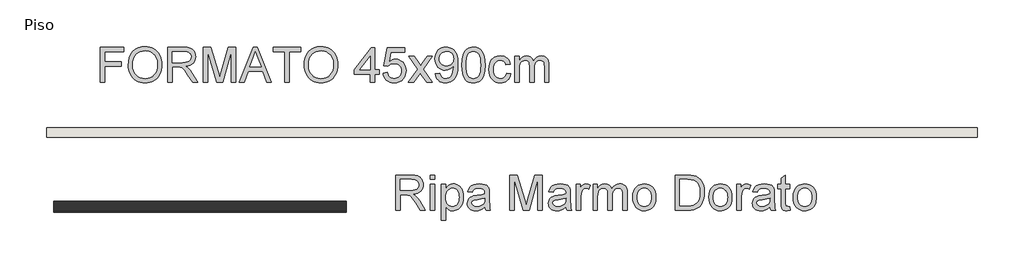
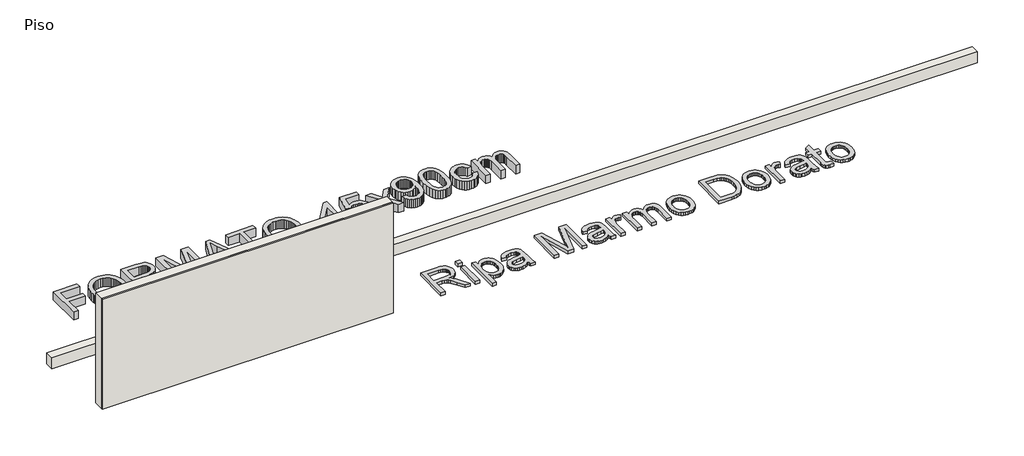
# One storey: 3 walls, 2 proxies.
"""IFC4 building model written with IfcOpenShell, lengths in millimetres."""

from ifc_helpers import new_model, si_unit, origin, origin_with_axes, place, context, project, spatial, polyline, outline, extrude, element, save

model = new_model("IFC4")

# Units and contexts
model_context = context("Model", 3, world=origin())
ifc_project = project(units=[si_unit("LENGTHUNIT", "METRE", prefix="MILLI")], contexts=[model_context])

# Site, building, storey
site = spatial("IfcSite", under=ifc_project)
building = spatial("IfcBuilding", under=site)
storey = spatial("IfcBuildingStorey", under=building, Name="Piso", Elevation=0.0)

# Proxies
placement = place(None, origin())
element("IfcBuildingElementProxy", 1, Name="600mm Arial", ObjectType="600mm Arial", at=placement, inside=storey, context=model_context, shape_type="SweptSolid", body=[
    extrude(outline(polyline([(92602.0859381, 2702.6380465), (92602.0859381, 3305.3759074), (93007.0504384, 3305.3759074), (93007.0504384, 3230.0336748), (92677.4281707, 3230.0336748), (92677.4281707, 3051.0958724), (92959.961543, 3051.0958724), (92959.961543, 2975.7536397), (92677.4281707, 2975.7536397), (92677.4281707, 2702.6380465), (92602.0859381, 2702.6380465)])), origin_with_axes(), (0.0, 0.0, 1.0), 150.0),
    extrude(outline(polyline([(93082.392671, 2996.0607259), (93087.4142602, 3066.7584483), (93102.4790279, 3129.3443727), (93127.5869741, 3183.8184992), (93143.9071391, 3208.0136381), (93162.7380987, 3230.1808276), (93205.8262774, 3267.1989534), (93254.7453857, 3293.6404718), (93309.4954237, 3309.5053828), (93370.0763912, 3314.7936865), (93410.6261841, 3312.310483), (93449.134232, 3304.8608726), (93485.6005348, 3292.4448553), (93520.0250925, 3275.062431), (93551.4422148, 3253.2378317), (93578.8862117, 3227.495289), (93602.357083, 3197.8348032), (93621.8548287, 3164.2563741), (93637.1771138, 3127.5233569), (93648.1216032, 3088.3991067), (93654.6882968, 3046.8836235), (93656.8771947, 3002.9769074), (93654.5733337, 2958.4907771), (93647.6617507, 2916.4142739), (93636.1424457, 2876.7473978), (93620.0154187, 2839.4901487), (93599.6623474, 2805.6266111), (93575.4649091, 2776.1408692), (93547.423104, 2751.032923), (93515.5369321, 2730.3027726), (93481.0617906, 2714.0791766), (93445.2530769, 2702.4908937), (93408.110791, 2695.537924), (93369.6349328, 2693.2202674), (93328.3769671, 2695.7816458), (93289.3630815, 2703.465781), (93252.5932761, 2716.272673), (93218.0675508, 2734.2023217), (93186.6872166, 2756.56035), (93159.3535844, 2782.6523805), (93136.0666541, 2812.4784132), (93116.8264257, 2846.0384482), (93101.761658, 2881.9851177), (93091.0011097, 2918.9710538), (93084.5447807, 2956.9962565), (93082.392671, 2996.0607259)]), holes=[polyline([(93157.7349036, 2995.3249619), (93161.5010955, 2945.375784), (93172.7996713, 2901.0368065), (93191.6306309, 2862.3080295), (93217.9939744, 2829.1894529), (93250.0410947, 2802.665161), (93285.9233848, 2783.7192383), (93325.6408447, 2772.3516846), (93369.1934744, 2768.5625001), (93413.4910652, 2772.3884728), (93453.6775746, 2783.8663911), (93489.7530028, 2802.9962548), (93521.7173496, 2829.7780641), (93547.8875551, 2863.5956165), (93566.5805589, 2903.8327097), (93577.7963613, 2950.4893437), (93581.5349621, 3003.5655186), (93579.9346754, 3038.0452586), (93575.1338153, 3070.2625243), (93567.1323819, 3100.2173158), (93555.9303752, 3127.9096329), (93541.6519553, 3152.9761924), (93524.4212823, 3175.0537106), (93504.2383563, 3194.1421877), (93481.1031774, 3210.2416235), (93455.7331153, 3223.0209243), (93428.84554, 3232.1489963), (93400.4404514, 3237.6258395), (93370.5178496, 3239.4514539), (93328.4781346, 3235.9335823), (93289.4734461, 3225.3799676), (93253.503784, 3207.7906097), (93220.5691484, 3183.1655086), (93193.0791663, 3150.318245), (93173.4434648, 3108.0623993), (93161.6620439, 3056.3979716), (93157.7349036, 2995.3249619)])]), origin_with_axes(), (0.0, 0.0, 1.0), 150.0),
    extrude(outline(polyline([(93760.4727645, 2702.6380465), (93760.4727645, 3305.3759074), (94020.1974531, 3305.3759074), (94090.0030617, 3301.3108114), (94140.7891711, 3289.1155232), (94160.3880844, 3279.4218327), (94177.9084644, 3266.6011451), (94193.3503112, 3250.6534606), (94206.7136247, 3231.5787792), (94217.4971656, 3210.4025718), (94225.1996949, 3188.1503097), (94229.8212125, 3164.8219926), (94231.3617183, 3140.4176208), (94228.809537, 3109.4603509), (94221.152993, 3081.0414668), (94208.3920863, 3055.1609684), (94190.5268169, 3031.8188558), (94167.3272585, 3011.76009), (94138.563485, 2995.7296321), (94104.2354964, 2983.727482), (94064.3432925, 2975.7536397), (94089.1753272, 2959.5300438), (94107.1647568, 2943.527177), (94138.0300562, 2906.9229184), (94168.233168, 2865.9776524), (94268.738529, 2702.6380465), (94181.1826142, 2702.6380465), (94102.7501728, 2827.5707721), (94046.0963456, 2910.2706446), (94025.0351013, 2934.3853094), (94006.2915137, 2949.3397125), (93970.4598074, 2963.6871103), (93926.7554263, 2966.3358607), (93835.8149971, 2966.3358607), (93835.8149971, 2702.6380465), (93760.4727645, 2702.6380465)]), holes=[polyline([(93835.8149971, 3041.6780933), (94004.4521037, 3041.6780933), (94052.8837684, 3044.3452377), (94090.4629142, 3052.3466711), (94118.7530396, 3066.2158224), (94139.3176431, 3086.4861203), (94151.8440251, 3111.0054553), (94156.0194857, 3137.6217176), (94154.0283244, 3156.8895371), (94148.0548405, 3174.3731289), (94138.099034, 3190.0724931), (94124.1609049, 3203.9876296), (94105.9185565, 3215.3827744), (94083.050092, 3223.5221635), (94055.5555114, 3228.405797), (94023.4348147, 3230.0336748), (93835.8149971, 3230.0336748), (93835.8149971, 3041.6780933)])]), origin_with_axes(), (0.0, 0.0, 1.0), 150.0),
    extrude(outline(polyline([(94363.2106254, 2702.6380465), (94363.2106254, 3305.3759074), (94492.8522405, 3305.3759074), (94616.1662853, 2880.5457794), (94641.0351082, 2791.8126422), (94667.9640702, 2887.9034193), (94789.2179758, 3305.3759074), (94918.8595909, 3305.3759074), (94918.8595909, 2702.6380465), (94843.5173583, 2702.6380465), (94843.5173583, 3230.0336748), (94692.0971291, 2702.6380465), (94589.9730872, 2702.6380465), (94438.552858, 3230.0336748), (94438.552858, 2702.6380465), (94363.2106254, 2702.6380465)])), origin_with_axes(), (0.0, 0.0, 1.0), 150.0),
    extrude(outline(polyline([(94980.5166133, 2702.6380465), (95221.1114382, 3305.3759074), (95285.2700581, 3305.3759074), (95525.864883, 2702.6380465), (95446.2552192, 2702.6380465), (95377.2405569, 2890.9936281), (95128.9937866, 2890.9936281), (95060.1262771, 2702.6380465), (94980.5166133, 2702.6380465)]), holes=[polyline([(95156.6585126, 2966.3358607), (95349.7229837, 2966.3358607), (95295.4236012, 3114.5187283), (95253.1907481, 3230.0336748), (95215.6667846, 3127.4681746), (95156.6585126, 2966.3358607)])]), origin_with_axes(), (0.0, 0.0, 1.0), 150.0),
    extrude(outline(polyline([(95757.0419287, 2702.6380465), (95757.0419287, 3230.0336748), (95559.2685681, 3230.0336748), (95559.2685681, 3305.3759074), (96030.1575219, 3305.3759074), (96030.1575219, 3230.0336748), (95832.3841613, 3230.0336748), (95832.3841613, 2702.6380465), (95757.0419287, 2702.6380465)])), origin_with_axes(), (0.0, 0.0, 1.0), 150.0),
    extrude(outline(polyline([(96086.6641964, 2996.0607259), (96091.6857856, 3066.7584483), (96106.7505533, 3129.3443727), (96131.8584995, 3183.8184992), (96148.1786645, 3208.0136381), (96167.0096242, 3230.1808276), (96210.0978028, 3267.1989534), (96259.0169111, 3293.6404718), (96313.7669491, 3309.5053828), (96374.3479166, 3314.7936865), (96414.8977096, 3312.310483), (96453.4057574, 3304.8608726), (96489.8720602, 3292.4448553), (96524.2966179, 3275.062431), (96555.7137403, 3253.2378317), (96583.1577371, 3227.495289), (96606.6286084, 3197.8348032), (96626.1263541, 3164.2563741), (96641.4486392, 3127.5233569), (96652.3931286, 3088.3991067), (96658.9598222, 3046.8836235), (96661.1487201, 3002.9769074), (96658.8448591, 2958.4907771), (96651.9332761, 2916.4142739), (96640.4139711, 2876.7473978), (96624.2869442, 2839.4901487), (96603.9338728, 2805.6266111), (96579.7364345, 2776.1408692), (96551.6946295, 2751.032923), (96519.8084575, 2730.3027726), (96485.3333161, 2714.0791766), (96449.5246024, 2702.4908937), (96412.3823164, 2695.537924), (96373.9064582, 2693.2202674), (96332.6484925, 2695.7816458), (96293.6346069, 2703.465781), (96256.8648015, 2716.272673), (96222.3390762, 2734.2023217), (96190.958742, 2756.56035), (96163.6251098, 2782.6523805), (96140.3381795, 2812.4784132), (96121.0979512, 2846.0384482), (96106.0331835, 2881.9851177), (96095.2726351, 2918.9710538), (96088.8163061, 2956.9962565), (96086.6641964, 2996.0607259)]), holes=[polyline([(96162.006429, 2995.3249619), (96165.7726209, 2945.375784), (96177.0711967, 2901.0368065), (96195.9021564, 2862.3080295), (96222.2654998, 2829.1894529), (96254.3126201, 2802.665161), (96290.1949102, 2783.7192383), (96329.9123701, 2772.3516846), (96373.4649998, 2768.5625001), (96417.7625906, 2772.3884728), (96457.9491, 2783.8663911), (96494.0245282, 2802.9962548), (96525.988875, 2829.7780641), (96552.1590805, 2863.5956165), (96570.8520844, 2903.8327097), (96582.0678867, 2950.4893437), (96585.8064875, 3003.5655186), (96584.2062008, 3038.0452586), (96579.4053407, 3070.2625243), (96571.4039074, 3100.2173158), (96560.2019006, 3127.9096329), (96545.9234807, 3152.9761924), (96528.6928077, 3175.0537106), (96508.5098818, 3194.1421877), (96485.3747028, 3210.2416235), (96460.0046407, 3223.0209243), (96433.1170654, 3232.1489963), (96404.7119768, 3237.6258395), (96374.789375, 3239.4514539), (96332.74966, 3235.9335823), (96293.7449715, 3225.3799676), (96257.7753094, 3207.7906097), (96224.8406738, 3183.1655086), (96197.3506917, 3150.318245), (96177.7149902, 3108.0623993), (96165.9335693, 3056.3979716), (96162.006429, 2995.3249619)])]), origin_with_axes(), (0.0, 0.0, 1.0), 150.0),
    extrude(outline(polyline([(97216.7976856, 2702.6380465), (97216.7976856, 2843.9047327), (96943.6820924, 2843.9047327), (96943.6820924, 2919.2469653), (97235.6332437, 3295.9581283), (97292.1399182, 3295.9581283), (97292.1399182, 2919.2469653), (97367.4821508, 2919.2469653), (97367.4821508, 2843.9047327), (97292.1399182, 2843.9047327), (97292.1399182, 2702.6380465), (97216.7976856, 2702.6380465)]), holes=[polyline([(97216.7976856, 2919.2469653), (97216.7976856, 3152.0426918), (97036.3883552, 2919.2469653), (97216.7976856, 2919.2469653)])]), origin_with_axes(), (0.0, 0.0, 1.0), 150.0),
    extrude(outline(polyline([(97433.4066044, 2862.7402908), (97508.748837, 2872.1580699), (97514.3774315, 2847.937639), (97522.5812, 2826.9269786), (97533.3601424, 2809.1260886), (97546.7142589, 2794.5349689), (97562.6159581, 2783.1720138), (97581.037649, 2775.0556173), (97601.9793316, 2770.1857794), (97625.4410058, 2768.5625001), (97654.1358015, 2770.8203758), (97679.4460827, 2777.594003), (97701.3718496, 2788.8833818), (97719.9131022, 2804.688512), (97734.6559732, 2824.2276445), (97745.1865953, 2846.7190299), (97751.5049685, 2872.1626684), (97753.611093, 2900.5585599), (97751.6383258, 2927.3955515), (97745.7200242, 2951.2526989), (97735.8561882, 2972.1300021), (97722.0468178, 2990.0274612), (97704.2459277, 3004.384056), (97682.4075328, 3014.6387666), (97656.531633, 3020.791593), (97626.6182282, 3022.8425351), (97590.069152, 3019.5683854), (97560.4730455, 3009.7459361), (97536.8366273, 2994.6995625), (97518.166616, 2975.7536397), (97442.8243834, 2985.1714188), (97508.748837, 3295.9581283), (97800.6999883, 3295.9581283), (97800.6999883, 3220.6158957), (97569.6700954, 3220.6158957), (97537.4436326, 3054.6275395), (97564.0323038, 3073.6838269), (97591.2647685, 3087.2954607), (97619.1410267, 3095.462441), (97647.6610783, 3098.1847677), (97684.3527088, 3094.8094504), (97718.0552981, 3084.6834985), (97748.7688462, 3067.806912), (97776.4933531, 3044.1796908), (97799.444591, 3015.2457719), (97815.8383324, 2982.4490921), (97825.6745773, 2945.7896512), (97828.9533256, 2905.2674495), (97826.0010726, 2866.2351698), (97817.1443135, 2829.9252169), (97802.3830485, 2796.3375907), (97781.7172774, 2765.4722913), (97750.4105196, 2733.8620309), (97713.8798375, 2711.2832734), (97672.125231, 2697.7360189), (97625.1467002, 2693.2202674), (97586.2661719, 2696.1219367), (97551.1472369, 2704.8269444), (97519.7898953, 2719.3352906), (97492.1941472, 2739.6469752), (97469.2337122, 2764.7503229), (97451.78231, 2793.633658), (97439.8399407, 2826.2969807), (97433.4066044, 2862.7402908)])), origin_with_axes(), (0.0, 0.0, 1.0), 150.0),
    extrude(outline(polyline([(97866.6244419, 2702.6380465), (98027.609603, 2925.1330772), (97876.0422209, 3145.2736631), (97966.6883446, 3145.2736631), (98039.8232852, 3039.3236485), (98073.9627344, 2989.2916972), (98103.5404468, 3030.200175), (98186.8289305, 3145.2736631), (98277.4750541, 3145.2736631), (98118.2557266, 2925.1330772), (98271.5889422, 2702.6380465), (98180.9428186, 2702.6380465), (98088.6780142, 2836.39994), (98071.7554424, 2860.8273045), (97957.2705655, 2702.6380465), (97866.6244419, 2702.6380465)])), origin_with_axes(), (0.0, 0.0, 1.0), 150.0),
    extrude(outline(polyline([(98328.0956166, 2853.3225117), (98403.4378492, 2862.7402908), (98416.3137191, 2819.9740089), (98425.7866804, 2803.7090262), (98437.2829928, 2790.856149), (98450.6738974, 2781.1026776), (98465.8306356, 2774.1359123), (98501.4416127, 2768.5625001), (98533.392164, 2772.1493495), (98562.4364475, 2782.9098979), (98586.5695064, 2799.6669228), (98603.7863838, 2821.2432018), (98616.8278005, 2849.6069036), (98628.4344775, 2886.7261969), (98636.6014578, 2929.326932), (98639.3237845, 2974.134959), (98638.8823261, 2988.8502388), (98612.7810986, 2956.991658), (98578.6232553, 2931.7549531), (98538.8736058, 2915.3106279), (98495.9969592, 2909.8291862), (98460.2066396, 2913.1769124), (98427.2949966, 2923.2200908), (98397.2620302, 2939.9587216), (98370.1077405, 2963.3928047), (98347.6071579, 2992.2991325), (98331.5353133, 3025.4544973), (98321.8922065, 3062.8588992), (98318.6778375, 3104.5123381), (98322.0485563, 3147.5545315), (98332.1607127, 3186.182141), (98349.0143066, 3220.3951665), (98372.609338, 3250.1936081), (98401.281141, 3274.3358641), (98433.3650495, 3291.5803326), (98468.8610636, 3301.9270137), (98507.7691831, 3305.3759074), (98536.4961684, 3303.4077387), (98563.9631578, 3297.5032327), (98590.1701515, 3287.6623894), (98615.1171493, 3273.8852086), (98637.9718182, 3256.4659962), (98657.9018253, 3235.6990575), (98674.9071705, 3211.5843928), (98688.9878539, 3184.1220018), (98700.0289123, 3151.7299921), (98707.9153825, 3112.8264711), (98712.6472647, 3067.4114388), (98714.2245588, 3015.4848952), (98712.6518632, 2960.950988), (98707.9337766, 2912.2756015), (98700.070299, 2869.4587358), (98689.0614303, 2832.5003908), (98674.9485572, 2800.4992558), (98657.7730666, 2772.5540197), (98637.5349583, 2748.6646826), (98614.2342325, 2728.8312446), (98588.3399385, 2713.2514421), (98560.3211261, 2702.1230117), (98530.1777951, 2695.4459535), (98497.9099456, 2693.2202674), (98464.0739991, 2695.8460252), (98433.4938082, 2703.7232984), (98406.169373, 2716.8520871), (98382.1006935, 2735.2323913), (98361.8947749, 2758.3675703), (98346.1586226, 2785.7609833), (98334.8922365, 2817.4126305), (98328.0956166, 2853.3225117)]), holes=[polyline([(98638.8823261, 3106.2781716), (98636.8497781, 3133.2807101), (98630.7521341, 3157.3401926), (98620.5893939, 3178.4566191), (98606.3615578, 3196.6299896), (98588.7676014, 3211.2441019), (98568.5065005, 3221.6827535), (98545.5782551, 3227.9459445), (98519.9828653, 3230.0336748), (98493.5689381, 3227.7849961), (98469.6566084, 3221.03896), (98448.2458762, 3209.7955666), (98429.3367417, 3194.0548157), (98413.8856979, 3174.7364124), (98402.849238, 3152.7600617), (98396.2273621, 3128.1257636), (98394.0200702, 3100.8335181), (98396.1078005, 3076.3555699), (98402.3709914, 3054.2780516), (98412.8096431, 3034.6009634), (98427.4237553, 3017.3243052), (98445.6063229, 3003.2574174), (98466.7503406, 2993.2096404), (98490.8558083, 2987.1809742), (98517.9227261, 2985.1714188), (98543.1640295, 2987.1809742), (98566.0600852, 2993.2096404), (98586.6108932, 3003.2574174), (98604.8164534, 3017.3243052), (98619.7202727, 3034.9412542), (98630.365858, 3055.639215), (98636.7532091, 3079.4181875), (98638.8823261, 3106.2781716)])]), origin_with_axes(), (0.0, 0.0, 1.0), 150.0),
    extrude(outline(polyline([(98780.1490123, 2999.1509346), (98785.6856363, 3095.6279879), (98792.6064164, 3136.5410643), (98802.2955084, 3172.5705072), (98814.7115257, 3204.0106222), (98829.8130816, 3231.1557149), (98847.6001761, 3254.0057853), (98868.0728091, 3272.5608335), (98891.2999586, 3286.9174283), (98917.3506024, 3297.1721389), (98946.2247405, 3303.3249653), (98977.9223729, 3305.3759074), (99024.3490807, 3300.5198651), (99065.9197461, 3285.9517381), (99100.6845947, 3262.2417435), (99126.6938518, 3229.9600984), (99146.3387503, 3189.3827143), (99162.0105233, 3140.7855028), (99172.274431, 3079.0732981), (99175.6957335, 2999.1509346), (99170.2142918, 2903.2257044), (99163.3624896, 2862.4505838), (99153.7699666, 2826.4671261), (99141.4505183, 2795.0132155), (99126.4179403, 2767.8267361), (99108.6722325, 2744.9076878), (99088.2133951, 2726.2560706), (99064.9586544, 2711.8029067), (99038.8252372, 2701.4792182), (99009.8131434, 2695.2850051), (98977.9223729, 2693.2202674), (98936.4252838, 2696.8071169), (98899.6370843, 2707.5676653), (98867.5577743, 2725.5019125), (98840.1873539, 2750.6098587), (98813.9205795, 2795.9972999), (98795.1585977, 2852.5499596), (98783.9014086, 2920.2678378), (98780.1490123, 2999.1509346)]), holes=[polyline([(98855.4912449, 2999.2980874), (98857.6985369, 2933.8012967), (98864.3204128, 2880.7849027), (98875.3568726, 2840.2489053), (98890.8079164, 2812.1933047), (98909.4963218, 2793.1048277), (98930.2448663, 2779.4702012), (98953.05355, 2771.2894254), (98977.9223729, 2768.5625001), (99002.7911958, 2771.2986224), (99025.5998795, 2779.5069894), (99046.348424, 2793.1876011), (99065.0368294, 2812.3404575), (99080.4878732, 2840.4420434), (99091.524333, 2880.9688437), (99098.1462089, 2933.9208584), (99100.3535009, 2999.2980874), (99098.2197853, 3063.0612342), (99091.8186386, 3115.1441277), (99081.1500607, 3155.5467678), (99066.2140517, 3184.2691546), (99047.8383461, 3204.2911322), (99026.8506783, 3218.5925448), (99003.2510483, 3227.1733923), (98977.0394561, 3230.0336748), (98952.2993919, 3227.5136831), (98929.8769843, 3219.9537081), (98909.7722333, 3207.3537498), (98891.9851388, 3189.7138081), (98876.0190602, 3158.4438385), (98864.6147184, 3116.2845619), (98857.7721133, 3063.2359782), (98855.4912449, 2999.2980874)])]), origin_with_axes(), (0.0, 0.0, 1.0), 150.0),
    extrude(outline(polyline([(99542.9891175, 2862.7402908), (99618.3313501, 2853.3225117), (99610.1367787, 2817.7713154), (99597.3252882, 2786.3128063), (99579.8968787, 2758.9469844), (99557.8515501, 2735.6738497), (99532.1182045, 2717.1004075), (99503.625744, 2703.833663), (99472.3741685, 2695.8736163), (99438.3634781, 2693.2202674), (99396.1076324, 2696.92208), (99358.2203854, 2708.0275178), (99324.7017371, 2726.5365806), (99295.5516875, 2752.4492687), (99271.9566561, 2785.2781382), (99255.1030622, 2824.5357456), (99244.9909058, 2870.2220909), (99241.620187, 2922.337174), (99247.3775403, 2989.3836677), (99254.5742318, 3019.5545898), (99264.6495999, 3047.4906288), (99277.6726226, 3072.6307646), (99293.7122776, 3094.4139773), (99312.7685649, 3112.8402667), (99334.8414846, 3127.9096329), (99358.9331568, 3139.6266745), (99384.0457015, 3147.9959899), (99410.1791187, 3153.0175791), (99437.3334085, 3154.6914422), (99470.7600863, 3152.3921797), (99500.9953877, 3145.4943923), (99528.0393129, 3133.99808), (99551.8918618, 3117.9032427), (99572.1483641, 3097.5777624), (99588.4041498, 3073.3895213), (99600.6592188, 3045.3385191), (99608.913571, 3013.4247561), (99533.5713384, 3004.006977), (99519.9045223, 3036.8772332), (99498.6225489, 3060.440075), (99470.9026405, 3074.6219259), (99437.9220197, 3079.3492096), (99412.3220313, 3077.022356), (99389.2328376, 3070.0417951), (99368.6544385, 3058.407527), (99350.586834, 3042.1195517), (99335.8761527, 3020.8007901), (99325.3685232, 2994.0741631), (99319.0639456, 2961.9396708), (99316.9624197, 2924.3973132), (99319.0179603, 2886.289337), (99325.1845822, 2853.7823642), (99335.4622855, 2826.8763948), (99349.85107, 2805.5714288), (99367.5599896, 2789.3800225), (99387.7980978, 2777.8147322), (99410.5653948, 2770.8755581), (99435.8618805, 2768.5625001), (99474.8757661, 2774.3382474), (99491.7477541, 2781.5579315), (99506.8631056, 2791.6654894), (99519.7987562, 2804.7712854), (99530.1316418, 2820.9856844), (99537.8617622, 2840.3086862), (99542.9891175, 2862.7402908)])), origin_with_axes(), (0.0, 0.0, 1.0), 150.0),
    extrude(outline(polyline([(99684.2558036, 2702.6380465), (99684.2558036, 3145.2736631), (99759.5980363, 3145.2736631), (99759.5980363, 3072.4330281), (99782.2595672, 3105.8918955), (99811.3958212, 3132.1034877), (99846.0135169, 3149.0444536), (99885.119373, 3154.6914422), (99927.0211323, 3148.934089), (99944.854212, 3141.7373974), (99960.6087584, 3131.6620293), (99985.6983105, 3104.0156974), (100002.1058475, 3067.1355273), (100029.5682384, 3105.4412401), (100060.8933903, 3132.8024635), (100096.0813031, 3149.2191975), (100135.1319769, 3154.6914422), (100165.293702, 3152.4151724), (100191.7674101, 3145.5863628), (100214.5531012, 3134.2050136), (100233.6507752, 3118.2711247), (100248.7477326, 3097.6007551), (100259.5312736, 3072.0099638), (100266.0013982, 3041.4987508), (100268.1581064, 3006.0671161), (100268.1581064, 2702.6380465), (100192.8158738, 2702.6380465), (100192.8158738, 2973.6935006), (100191.0684343, 3011.2726464), (100185.8261159, 3036.6013217), (100176.0036666, 3053.9469578), (100160.5158346, 3067.5769857), (100140.5950246, 3076.4061536), (100117.4736412, 3079.3492096), (100096.1226899, 3077.4638144), (100076.6571338, 3071.8076287), (100059.076973, 3062.3806526), (100043.3822073, 3049.182886), (100030.4741478, 3031.8280529), (100021.2541053, 3009.9298771), (100015.7220798, 2983.4883587), (100013.8780713, 2952.5034976), (100013.8780713, 2702.6380465), (99938.5358387, 2702.6380465), (99938.5358387, 2982.0812101), (99934.1764371, 3024.6819451), (99928.727185, 3041.4021818), (99921.0982321, 3055.0689979), (99910.9860758, 3065.6915905), (99898.0872133, 3073.2791567), (99882.4016448, 3077.8316964), (99863.9293701, 3079.3492096), (99834.9034807, 3075.3025076), (99808.1584596, 3063.1624018), (99786.0855399, 3043.2231977), (99771.0759545, 3015.7792008), (99762.4675158, 2977.7034143), (99759.5980363, 2925.8688412), (99759.5980363, 2702.6380465), (99684.2558036, 2702.6380465)])), origin_with_axes(), (0.0, 0.0, 1.0), 150.0),
])
element("IfcBuildingElementProxy", 2, Name="600mm Arial", ObjectType="600mm Arial", at=placement, inside=storey, context=model_context, shape_type="SweptSolid", body=[
    extrude(outline(polyline([(97649.031951, 518.0346061), (97649.031951, 1120.772467), (97908.7566396, 1120.772467), (97978.5622482, 1116.7073709), (98029.3483576, 1104.5120828), (98048.9472709, 1094.8183922), (98066.467651, 1081.9977047), (98081.9094977, 1066.0500202), (98095.2728112, 1046.9753388), (98106.0563522, 1025.7991314), (98113.7588814, 1003.5468692), (98118.380399, 980.2185522), (98119.9209048, 955.8141804), (98117.3687235, 924.8569105), (98109.7121795, 896.4380263), (98096.9512728, 870.557528), (98079.0860034, 847.2154154), (98055.8864451, 827.1566496), (98027.1226716, 811.1261917), (97992.7946829, 799.1240416), (97952.902479, 791.1501993), (97977.7345137, 774.9266033), (97995.7239433, 758.9237365), (98026.5892427, 722.319478), (98056.7923545, 681.374212), (98157.2977156, 518.0346061), (98069.7418007, 518.0346061), (97991.3093593, 642.9673317), (97934.6555321, 725.6672042), (97913.5942879, 749.781869), (97894.8507002, 764.7362721), (97859.0189939, 779.0836699), (97815.3146128, 781.7324202), (97724.3741836, 781.7324202), (97724.3741836, 518.0346061), (97649.031951, 518.0346061)]), holes=[polyline([(97724.3741836, 857.0746529), (97893.0112902, 857.0746529), (97941.4429549, 859.7417973), (97979.0221007, 867.7432307), (98007.3122261, 881.6123819), (98027.8768297, 901.8826799), (98040.4032116, 926.4020148), (98044.5786722, 953.0182772), (98042.5875109, 972.2860967), (98036.614027, 989.7696885), (98026.6582205, 1005.4690527), (98012.7200915, 1019.3841891), (97994.477743, 1030.7793339), (97971.6092785, 1038.9187231), (97944.1146979, 1043.8023566), (97911.9940012, 1045.4302344), (97724.3741836, 1045.4302344), (97724.3741836, 857.0746529)])]), origin_with_axes(), (0.0, 0.0, 1.0), 50.0),
    extrude(outline(polyline([(98242.3520328, 1045.4302344), (98242.3520328, 1120.772467), (98317.6942655, 1120.772467), (98317.6942655, 1045.4302344), (98242.3520328, 1045.4302344)])), origin_with_axes(), (0.0, 0.0, 1.0), 50.0),
    extrude(outline(polyline([(98242.3520328, 518.0346061), (98242.3520328, 960.6702227), (98317.6942655, 960.6702227), (98317.6942655, 518.0346061), (98242.3520328, 518.0346061)])), origin_with_axes(), (0.0, 0.0, 1.0), 50.0),
    extrude(outline(polyline([(98430.7076144, 348.5145827), (98430.7076144, 960.6702227), (98506.049847, 960.6702227), (98506.049847, 886.7995181), (98530.6243643, 923.2382297), (98558.1419375, 949.2658808), (98590.2212475, 964.8824715), (98628.480975, 970.0880018), (98654.7569465, 968.2669859), (98679.4326313, 962.8039383), (98702.5080295, 953.6988589), (98723.9831409, 940.9517478), (98743.3889162, 924.8936987), (98760.2563057, 905.8558054), (98774.5853094, 883.838068), (98786.3759273, 858.8404864), (98802.1580649, 803.3270934), (98807.4187774, 742.7369287), (98801.4774832, 678.3023973), (98794.0508654, 648.6373129), (98783.6536005, 620.6736828), (98770.4282428, 595.1426723), (98754.5173465, 572.775447), (98735.9209117, 553.5720068), (98714.6389383, 537.5323518), (98691.7152914, 524.8818097), (98668.1938364, 515.8457082), (98644.0745731, 510.4240473), (98619.3575015, 508.616827), (98584.7214117, 513.4544753), (98553.80093, 527.96742), (98527.3318204, 549.8747928), (98506.049847, 576.8957253), (98506.049847, 348.5145827), (98430.7076144, 348.5145827)]), holes=[polyline([(98506.049847, 735.8207472), (98508.0869935, 699.5107943), (98514.1984332, 668.2776129), (98524.3841659, 642.1212031), (98538.6441918, 621.0415647), (98555.8104854, 604.8179688), (98574.7150214, 593.2296859), (98595.3577998, 586.2767162), (98617.7388207, 583.9590596), (98640.4417384, 586.3594897), (98661.4615958, 593.5607797), (98680.7983932, 605.5629298), (98698.4521305, 622.3659399), (98713.1628117, 644.2089334), (98723.6704412, 671.3310335), (98729.9750189, 703.7322402), (98732.0765448, 741.4125536), (98730.0256027, 777.4098068), (98723.8727763, 808.5878059), (98713.6180657, 834.9465508), (98699.2614709, 856.4860417), (98682.0537905, 873.2246724), (98663.2458235, 885.1808373), (98642.8375698, 892.3545362), (98620.8290295, 894.7457692), (98598.889467, 892.2027849), (98578.2466885, 884.573832), (98558.9006941, 871.8589105), (98540.8514837, 854.0580205), (98525.6257677, 831.4102852), (98514.7502562, 804.1548278), (98508.2249493, 772.2916485), (98506.049847, 735.8207472)])]), origin_with_axes(), (0.0, 0.0, 1.0), 50.0),
    extrude(outline(polyline([(99174.7121614, 574.5412806), (99138.7149082, 543.6759812), (99101.6507972, 523.4792596), (99062.6736998, 512.3324352), (99020.9374874, 508.616827), (98987.391248, 510.8517101), (98957.974484, 517.5563595), (98932.6871953, 528.7307751), (98911.5293821, 544.374957), (98894.822941, 563.4956236), (98882.8897687, 585.0994938), (98875.7298654, 609.1865675), (98873.343231, 635.7568446), (98876.9484745, 666.9900259), (98887.7642052, 695.3537278), (98904.4476537, 719.6339395), (98925.6560507, 738.6166504), (98950.5800559, 752.9640482), (98978.4103288, 763.3383205), (99043.5990183, 774.6690859), (99120.6335081, 786.5884626), (99174.270703, 800.5679784), (99174.7121614, 817.3433974), (99169.5250253, 850.9678117), (99163.0411051, 863.4206173), (99153.9636169, 872.967155), (99138.2734498, 882.4952987), (99119.1619801, 889.3011156), (99070.6751332, 894.7457692), (99025.7935298, 891.1221315), (98994.4499838, 880.2512185), (98973.0760399, 860.1464675), (98958.1032427, 828.8213156), (98882.76101, 838.2390947), (98895.839215, 879.4418782), (98915.3553548, 911.8154937), (98943.1304455, 936.573952), (98980.9855028, 954.9312636), (99027.2834519, 966.2988172), (99080.3872179, 970.0880018), (99131.3204801, 966.7402756), (99171.6955291, 956.6970971), (99202.1377642, 941.5955412), (99223.2725848, 923.0726828), (99237.2888888, 900.1720286), (99246.3755741, 871.9370855), (99250.054394, 806.0126319), (99250.054394, 712.2762995), (99253.8803668, 581.3838857), (99259.5457495, 549.0286642), (99268.8899522, 518.0346061), (99193.5477196, 518.0346061), (99181.4811901, 544.2278042), (99174.7121614, 574.5412806)]), holes=[polyline([(99174.7121614, 725.2257458), (99124.0915989, 712.6809697), (99053.1639502, 702.1227565), (98988.3431427, 689.9090742), (98971.4757532, 681.558153), (98958.9861594, 670.0434465), (98951.2606376, 656.2478717), (98948.6854636, 641.0543453), (98954.295664, 618.6503318), (98971.1262653, 600.2930202), (98998.8093854, 588.0425498), (99036.9771424, 583.9590596), (99077.4441619, 588.4656141), (99113.2022918, 601.9852774), (99142.191393, 621.9060874), (99162.3513264, 645.616082), (99171.2908589, 670.0434465), (99174.270703, 703.8885901), (99174.7121614, 725.2257458)])]), origin_with_axes(), (0.0, 0.0, 1.0), 50.0),
    extrude(outline(polyline([(99598.5122199, 518.0346061), (99598.5122199, 1120.772467), (99728.153835, 1120.772467), (99851.4678797, 695.942339), (99876.3367026, 607.2092017), (99903.2656647, 703.2999789), (100024.5195703, 1120.772467), (100154.1611854, 1120.772467), (100154.1611854, 518.0346061), (100078.8189528, 518.0346061), (100078.8189528, 1045.4302344), (99927.3987236, 518.0346061), (99825.2746817, 518.0346061), (99673.8544525, 1045.4302344), (99673.8544525, 518.0346061), (99598.5122199, 518.0346061)])), origin_with_axes(), (0.0, 0.0, 1.0), 50.0),
    extrude(outline(polyline([(100559.1256857, 574.5412806), (100523.1284324, 543.6759812), (100486.0643214, 523.4792596), (100447.087224, 512.3324352), (100405.3510117, 508.616827), (100371.8047723, 510.8517101), (100342.3880082, 517.5563595), (100317.1007196, 528.7307751), (100295.9429063, 544.374957), (100279.2364652, 563.4956236), (100267.303293, 585.0994938), (100260.1433897, 609.1865675), (100257.7567552, 635.7568446), (100261.3619988, 666.9900259), (100272.1777294, 695.3537278), (100288.8611779, 719.6339395), (100310.0695749, 738.6166504), (100334.9935801, 752.9640482), (100362.823853, 763.3383205), (100428.0125426, 774.6690859), (100505.0470324, 786.5884626), (100558.6842273, 800.5679784), (100559.1256857, 817.3433974), (100553.9385495, 850.9678117), (100547.4546294, 863.4206173), (100538.3771411, 872.967155), (100522.686974, 882.4952987), (100503.5755044, 889.3011156), (100455.0886574, 894.7457692), (100410.207054, 891.1221315), (100378.863508, 880.2512185), (100357.4895641, 860.1464675), (100342.5167669, 828.8213156), (100267.1745343, 838.2390947), (100280.2527392, 879.4418782), (100299.7688791, 911.8154937), (100327.5439697, 936.573952), (100365.399027, 954.9312636), (100411.6969761, 966.2988172), (100464.8007421, 970.0880018), (100515.7340043, 966.7402756), (100556.1090533, 956.6970971), (100586.5512884, 941.5955412), (100607.686109, 923.0726828), (100621.702413, 900.1720286), (100630.7890983, 871.9370855), (100634.4679183, 806.0126319), (100634.4679183, 712.2762995), (100638.293891, 581.3838857), (100643.9592738, 549.0286642), (100653.3034764, 518.0346061), (100577.9612438, 518.0346061), (100565.8947144, 544.2278042), (100559.1256857, 574.5412806)]), holes=[polyline([(100559.1256857, 725.2257458), (100508.5051231, 712.6809697), (100437.5774745, 702.1227565), (100372.7566669, 689.9090742), (100355.8892774, 681.558153), (100343.3996837, 670.0434465), (100335.6741618, 656.2478717), (100333.0989878, 641.0543453), (100338.7091883, 618.6503318), (100355.5397895, 600.2930202), (100383.2229097, 588.0425498), (100421.3906667, 583.9590596), (100461.8576861, 588.4656141), (100497.6158161, 601.9852774), (100526.6049173, 621.9060874), (100546.7648506, 645.616082), (100555.7043831, 670.0434465), (100558.6842273, 703.8885901), (100559.1256857, 725.2257458)])]), origin_with_axes(), (0.0, 0.0, 1.0), 50.0),
    extrude(outline(polyline([(100738.0634881, 518.0346061), (100738.0634881, 960.6702227), (100803.9879417, 960.6702227), (100803.9879417, 895.1872276), (100828.3417297, 933.1526495), (100850.7825314, 955.5198748), (100873.2969096, 966.44597), (100897.8714268, 970.0880018), (100935.3953903, 964.2754662), (100973.507965, 946.8378597), (100948.3448366, 879.2947254), (100921.8573329, 890.8830082), (100895.3698293, 894.7457692), (100872.8738453, 891.030161), (100852.7690942, 879.8833366), (100836.5271041, 862.1514244), (100825.619403, 838.6805531), (100816.4591413, 796.5948528), (100813.4057207, 750.6831798), (100813.4057207, 518.0346061), (100738.0634881, 518.0346061)])), origin_with_axes(), (0.0, 0.0, 1.0), 50.0),
    extrude(outline(polyline([(101020.5968604, 518.0346061), (101020.5968604, 960.6702227), (101095.939093, 960.6702227), (101095.939093, 887.8295876), (101118.6006239, 921.2884551), (101147.736878, 947.5000473), (101182.3545737, 964.4410131), (101221.4604298, 970.0880018), (101263.362189, 964.3306485), (101281.1952688, 957.133957), (101296.9498152, 947.0585889), (101322.0393673, 919.4122569), (101338.4469043, 882.5320869), (101365.9092952, 920.8377997), (101397.2344471, 948.1990231), (101432.4223599, 964.6157571), (101471.4730337, 970.0880018), (101501.6347588, 967.8117319), (101528.1084669, 960.9829224), (101550.8941579, 949.6015732), (101569.991832, 933.6676842), (101585.0887894, 912.9973146), (101595.8723304, 887.4065234), (101602.342455, 856.8953104), (101604.4991632, 821.4636757), (101604.4991632, 518.0346061), (101529.1569306, 518.0346061), (101529.1569306, 789.0900601), (101527.4094911, 826.6692059), (101522.1671726, 851.9978813), (101512.3447234, 869.3435174), (101496.8568914, 882.9735453), (101476.9360813, 891.8027132), (101453.8146979, 894.7457692), (101432.4637466, 892.8603739), (101412.9981906, 887.2041883), (101395.4180297, 877.7772121), (101379.7232641, 864.5794456), (101366.8152046, 847.2246124), (101357.5951621, 825.3264367), (101352.0631366, 798.8849183), (101350.2191281, 767.9000572), (101350.2191281, 518.0346061), (101274.8768955, 518.0346061), (101274.8768955, 797.4777696), (101270.5174938, 840.0785047), (101265.0682418, 856.7987414), (101257.4392889, 870.4655575), (101247.3271326, 881.0881501), (101234.4282701, 888.6757162), (101218.7427015, 893.2282559), (101200.2704269, 894.7457692), (101171.2445374, 890.6990672), (101144.4995164, 878.5589614), (101122.4265967, 858.6197572), (101107.4170113, 831.1757604), (101098.8085726, 793.0999739), (101095.939093, 741.2654008), (101095.939093, 518.0346061), (101020.5968604, 518.0346061)])), origin_with_axes(), (0.0, 0.0, 1.0), 50.0),
    extrude(outline(polyline([(101698.6769539, 739.3524144), (101702.751247, 796.6776263), (101714.9741263, 846.0749812), (101735.3455918, 887.5444791), (101763.8656435, 921.08612), (101792.5788332, 942.5244433), (101824.2718671, 957.8375313), (101858.9447451, 967.0253842), (101896.5974673, 970.0880018), (101938.1635343, 966.358598), (101975.7472786, 955.1703869), (102009.3487003, 936.5233682), (102038.9677995, 910.4175422), (102063.1422451, 877.7358254), (102080.4097062, 839.3611348), (102090.7701829, 795.2934703), (102094.2236751, 745.5328319), (102092.6969649, 705.2037682), (102088.116834, 669.4180471), (102080.4832826, 638.1756687), (102069.7963107, 611.4766329), (102056.1892754, 588.4150303), (102039.795534, 568.0849515), (102020.6150864, 550.4863966), (101998.6479328, 535.6193655), (101974.7493987, 523.8057549), (101949.7748097, 515.3674616), (101923.724166, 510.3044857), (101896.5974673, 508.616827), (101854.4243951, 512.3324352), (101816.4911629, 523.4792596), (101782.7977707, 542.0573004), (101753.3442184, 568.0665574), (101729.4272902, 601.0655724), (101712.3437701, 640.6128869), (101702.093658, 686.7085009), (101698.6769539, 739.3524144)]), holes=[polyline([(101774.0191865, 739.4995672), (101776.1988874, 702.9550895), (101782.7379898, 671.3126394), (101793.6364939, 644.5722169), (101808.8943997, 622.7338219), (101827.4540463, 605.7698634), (101848.2577732, 593.6527502), (101871.3055802, 586.3824823), (101896.5974673, 583.9590596), (101921.7605958, 586.3962778), (101944.7164323, 593.7079325), (101965.4649768, 605.8940236), (101984.0062294, 622.9545511), (101999.2641351, 645.0090767), (102010.1626392, 672.1771621), (102016.7017417, 704.4588072), (102018.8814425, 741.854012), (102016.6879461, 777.2396614), (102010.1074569, 808.054377), (101999.139975, 834.2981588), (101983.7855002, 855.9710069), (101965.1752698, 872.9349654), (101944.4405208, 885.0520786), (101921.5812533, 892.3223465), (101896.5974673, 894.7457692), (101871.3055802, 892.3315436), (101848.2577732, 885.0888668), (101827.4540463, 873.0177388), (101808.8943997, 856.1181597), (101793.6364939, 834.3441441), (101782.7379898, 807.6497068), (101776.1988874, 776.0348478), (101774.0191865, 739.4995672)])]), origin_with_axes(), (0.0, 0.0, 1.0), 50.0),
    extrude(outline(polyline([(102423.8459428, 518.0346061), (102423.8459428, 1120.772467), (102631.7728465, 1120.772467), (102693.9081155, 1118.6019632), (102739.3415419, 1112.0904519), (102787.3869305, 1095.3518211), (102827.9275263, 1068.9746821), (102850.2671605, 1047.4167972), (102869.6085564, 1023.0630091), (102885.951714, 995.9133178), (102899.2966334, 965.9677234), (102909.6617086, 933.5021373), (102917.0653338, 898.7924711), (102922.9882339, 822.6408981), (102918.9783201, 757.9488493), (102906.9485789, 701.0191105), (102888.6280555, 652.5506576), (102865.7457954, 613.2424664), (102839.4054446, 582.2116202), (102810.7106489, 558.575202), (102777.7668163, 541.0456249), (102738.6793543, 528.335302), (102693.3746866, 520.6097801), (102641.7792368, 518.0346061), (102423.8459428, 518.0346061)]), holes=[polyline([(102499.1881754, 593.3768387), (102632.5086105, 593.3768387), (102687.6541216, 596.0991655), (102729.4823044, 604.2661458), (102761.0465796, 617.399533), (102785.4003677, 635.0210806), (102811.5751716, 667.6338194), (102831.2384643, 709.8482784), (102843.544117, 761.8483984), (102847.6460013, 823.8181205), (102845.6364459, 867.5592897), (102839.6077797, 905.9293818), (102829.5600027, 938.9283968), (102815.4931149, 966.5563346), (102798.5475505, 989.4385947), (102779.8637437, 1008.2005765), (102759.4416944, 1022.8422799), (102737.2814027, 1033.3637049), (102693.9449037, 1042.413602), (102630.4484713, 1045.4302344), (102499.1881754, 1045.4302344), (102499.1881754, 593.3768387)])]), origin_with_axes(), (0.0, 0.0, 1.0), 50.0),
    extrude(outline(polyline([(102998.3304665, 739.3524144), (103002.4047596, 796.6776263), (103014.6276389, 846.0749812), (103034.9991044, 887.5444791), (103063.519156, 921.08612), (103092.2323458, 942.5244433), (103123.9253796, 957.8375313), (103158.5982577, 967.0253842), (103196.2509799, 970.0880018), (103237.8170468, 966.358598), (103275.4007912, 955.1703869), (103309.0022129, 936.5233682), (103338.621312, 910.4175422), (103362.7957576, 877.7358254), (103380.0632188, 839.3611348), (103390.4236955, 795.2934703), (103393.8771877, 745.5328319), (103392.3504774, 705.2037682), (103387.7703466, 669.4180471), (103380.1367952, 638.1756687), (103369.4498232, 611.4766329), (103355.8427879, 588.4150303), (103339.4490465, 568.0849515), (103320.268599, 550.4863966), (103298.3014454, 535.6193655), (103274.4029112, 523.8057549), (103249.4283223, 515.3674616), (103223.3776785, 510.3044857), (103196.2509799, 508.616827), (103154.0779077, 512.3324352), (103116.1446754, 523.4792596), (103082.4512832, 542.0573004), (103052.997731, 568.0665574), (103029.0808028, 601.0655724), (103011.9972826, 640.6128869), (103001.7471705, 686.7085009), (102998.3304665, 739.3524144)]), holes=[polyline([(103073.6726991, 739.4995672), (103075.8523999, 702.9550895), (103082.3915024, 671.3126394), (103093.2900065, 644.5722169), (103108.5479122, 622.7338219), (103127.1075589, 605.7698634), (103147.9112857, 593.6527502), (103170.9590927, 586.3824823), (103196.2509799, 583.9590596), (103221.4141084, 586.3962778), (103244.3699449, 593.7079325), (103265.1184894, 605.8940236), (103283.6597419, 622.9545511), (103298.9176477, 645.0090767), (103309.8161518, 672.1771621), (103316.3552543, 704.4588072), (103318.5349551, 741.854012), (103316.3414587, 777.2396614), (103309.7609695, 808.054377), (103298.7934875, 834.2981588), (103283.4390128, 855.9710069), (103264.8287823, 872.9349654), (103244.0940334, 885.0520786), (103221.2347659, 892.3223465), (103196.2509799, 894.7457692), (103170.9590927, 892.3315436), (103147.9112857, 885.0888668), (103127.1075589, 873.0177388), (103108.5479122, 856.1181597), (103093.2900065, 834.3441441), (103082.3915024, 807.6497068), (103075.8523999, 776.0348478), (103073.6726991, 739.4995672)])]), origin_with_axes(), (0.0, 0.0, 1.0), 50.0),
    extrude(outline(polyline([(103478.6371994, 518.0346061), (103478.6371994, 960.6702227), (103544.5616529, 960.6702227), (103544.5616529, 895.1872276), (103568.915441, 933.1526495), (103591.3562427, 955.5198748), (103613.8706208, 966.44597), (103638.4451381, 970.0880018), (103675.9691016, 964.2754662), (103714.0816763, 946.8378597), (103688.9185478, 879.2947254), (103662.4310442, 890.8830082), (103635.9435405, 894.7457692), (103613.4475565, 891.030161), (103593.3428055, 879.8833366), (103577.1008154, 862.1514244), (103566.1931142, 838.6805531), (103557.0328526, 796.5948528), (103553.979432, 750.6831798), (103553.979432, 518.0346061), (103478.6371994, 518.0346061)])), origin_with_axes(), (0.0, 0.0, 1.0), 50.0),
    extrude(outline(polyline([(104043.703944, 574.5412806), (104007.7066908, 543.6759812), (103970.6425797, 523.4792596), (103931.6654824, 512.3324352), (103889.92927, 508.616827), (103856.3830306, 510.8517101), (103826.9662665, 517.5563595), (103801.6789779, 528.7307751), (103780.5211646, 544.374957), (103763.8147235, 563.4956236), (103751.8815513, 585.0994938), (103744.721648, 609.1865675), (103742.3350135, 635.7568446), (103745.9402571, 666.9900259), (103756.7559877, 695.3537278), (103773.4394362, 719.6339395), (103794.6478332, 738.6166504), (103819.5718384, 752.9640482), (103847.4021114, 763.3383205), (103912.5908009, 774.6690859), (103989.6252907, 786.5884626), (104043.2624856, 800.5679784), (104043.703944, 817.3433974), (104038.5168079, 850.9678117), (104032.0328877, 863.4206173), (104022.9553995, 872.967155), (104007.2652324, 882.4952987), (103988.1537627, 889.3011156), (103939.6669157, 894.7457692), (103894.7853123, 891.1221315), (103863.4417663, 880.2512185), (103842.0678224, 860.1464675), (103827.0950252, 828.8213156), (103751.7527926, 838.2390947), (103764.8309975, 879.4418782), (103784.3471374, 911.8154937), (103812.122228, 936.573952), (103849.9772853, 954.9312636), (103896.2752344, 966.2988172), (103949.3790004, 970.0880018), (104000.3122627, 966.7402756), (104040.6873116, 956.6970971), (104071.1295467, 941.5955412), (104092.2643673, 923.0726828), (104106.2806714, 900.1720286), (104115.3673566, 871.9370855), (104119.0461766, 806.0126319), (104119.0461766, 712.2762995), (104122.8721493, 581.3838857), (104128.5375321, 549.0286642), (104137.8817347, 518.0346061), (104062.5395021, 518.0346061), (104050.4729727, 544.2278042), (104043.703944, 574.5412806)]), holes=[polyline([(104043.703944, 725.2257458), (103993.0833814, 712.6809697), (103922.1557328, 702.1227565), (103857.3349252, 689.9090742), (103840.4675357, 681.558153), (103827.977942, 670.0434465), (103820.2524201, 656.2478717), (103817.6772461, 641.0543453), (103823.2874466, 618.6503318), (103840.1180479, 600.2930202), (103867.801168, 588.0425498), (103905.968925, 583.9590596), (103946.4359445, 588.4656141), (103982.1940744, 601.9852774), (104011.1831756, 621.9060874), (104031.3431089, 645.616082), (104040.2826414, 670.0434465), (104043.2624856, 703.8885901), (104043.703944, 725.2257458)])]), origin_with_axes(), (0.0, 0.0, 1.0), 50.0),
    extrude(outline(polyline([(104382.7439907, 580.8688509), (104392.1617698, 515.8273141), (104335.8022482, 508.616827), (104299.639448, 511.743824), (104272.6736978, 521.1248149), (104253.6174104, 535.5825773), (104241.182999, 553.9398888), (104234.3403939, 585.4673758), (104232.0595255, 639.4356645), (104232.0595255, 885.3279901), (104175.5528511, 885.3279901), (104175.5528511, 960.6702227), (104232.0595255, 960.6702227), (104232.0595255, 1068.2389181), (104307.4017581, 1112.5319103), (104307.4017581, 960.6702227), (104382.7439907, 960.6702227), (104382.7439907, 885.3279901), (104307.4017581, 885.3279901), (104307.4017581, 641.6429565), (104311.3748837, 602.7946178), (104324.2507535, 589.0358312), (104335.1216665, 585.2282525), (104349.9289168, 583.9590596), (104382.7439907, 580.8688509)])), origin_with_axes(), (0.0, 0.0, 1.0), 50.0),
    extrude(outline(polyline([(104439.2506652, 739.3524144), (104443.3249583, 796.6776263), (104455.5478376, 846.0749812), (104475.9193031, 887.5444791), (104504.4393547, 921.08612), (104533.1525445, 942.5244433), (104564.8455784, 957.8375313), (104599.5184564, 967.0253842), (104637.1711786, 970.0880018), (104678.7372455, 966.358598), (104716.3209899, 955.1703869), (104749.9224116, 936.5233682), (104779.5415107, 910.4175422), (104803.7159563, 877.7358254), (104820.9834175, 839.3611348), (104831.3438942, 795.2934703), (104834.7973864, 745.5328319), (104833.2706761, 705.2037682), (104828.6905453, 669.4180471), (104821.0569939, 638.1756687), (104810.3700219, 611.4766329), (104796.7629866, 588.4150303), (104780.3692452, 568.0849515), (104761.1887977, 550.4863966), (104739.2216441, 535.6193655), (104715.32311, 523.8057549), (104690.348521, 515.3674616), (104664.2978772, 510.3044857), (104637.1711786, 508.616827), (104594.9981064, 512.3324352), (104557.0648742, 523.4792596), (104523.3714819, 542.0573004), (104493.9179297, 568.0665574), (104470.0010015, 601.0655724), (104452.9174813, 640.6128869), (104442.6673692, 686.7085009), (104439.2506652, 739.3524144)]), holes=[polyline([(104514.5928978, 739.4995672), (104516.7725986, 702.9550895), (104523.3117011, 671.3126394), (104534.2102052, 644.5722169), (104549.468111, 622.7338219), (104568.0277576, 605.7698634), (104588.8314844, 593.6527502), (104611.8792914, 586.3824823), (104637.1711786, 583.9590596), (104662.3343071, 586.3962778), (104685.2901436, 593.7079325), (104706.0386881, 605.8940236), (104724.5799407, 622.9545511), (104739.8378464, 645.0090767), (104750.7363505, 672.1771621), (104757.275453, 704.4588072), (104759.4551538, 741.854012), (104757.2616574, 777.2396614), (104750.6811682, 808.054377), (104739.7136862, 834.2981588), (104724.3592115, 855.9710069), (104705.748981, 872.9349654), (104685.0142321, 885.0520786), (104662.1549646, 892.3223465), (104637.1711786, 894.7457692), (104611.8792914, 892.3315436), (104588.8314844, 885.0888668), (104568.0277576, 873.0177388), (104549.468111, 856.1181597), (104534.2102052, 834.3441441), (104523.3117011, 807.6497068), (104516.7725986, 776.0348478), (104514.5928978, 739.4995672)])]), origin_with_axes(), (0.0, 0.0, 1.0), 50.0),
])

# Walls
element("IfcWall", 3, ObjectType="5cm - Porcelanato Ripa Marmo Dorato  - Acetinado 45X90", at=placement, inside=storey, context=model_context, shape_type="SweptSolid", body=[
    extrude(outline(polyline([(96809.5952038, 484.0296351), (91809.5952038, 484.0296351), (91809.5952038, 514.0296351), (96809.5952038, 514.0296351), (96809.5952038, 484.0296351)])), origin_with_axes(), (0.0, 0.0, 1.0), 2000.0),
])
element("IfcWall", 4, ObjectType="CO01 - Bloco de Concreto 14cm / Pintura Branca Simples", at=placement, inside=storey, context=model_context, shape_type="SweptSolid", body=[
    extrude(outline(polyline([(107586.699165, 1765.7486968), (91686.699165, 1765.7486968), (91686.699165, 1924.5486968), (107586.699165, 1924.5486968), (107586.699165, 1765.7486968)])), origin_with_axes(), (0.0, 0.0, 1.0), 200.0),
])
element("IfcWall", 5, ObjectType="CO01 - Bloco de Concreto 14cm / Pintura Branca Simples", at=placement, inside=storey, context=model_context, shape_type="SweptSolid", body=[
    extrude(outline(polyline([(96809.5952038, 514.0296351), (91809.5952038, 514.0296351), (91809.5952038, 672.8296351), (96809.5952038, 672.8296351), (96809.5952038, 514.0296351)])), origin_with_axes(), (0.0, 0.0, 1.0), 2000.0),
])

save(model, "model.ifc")
